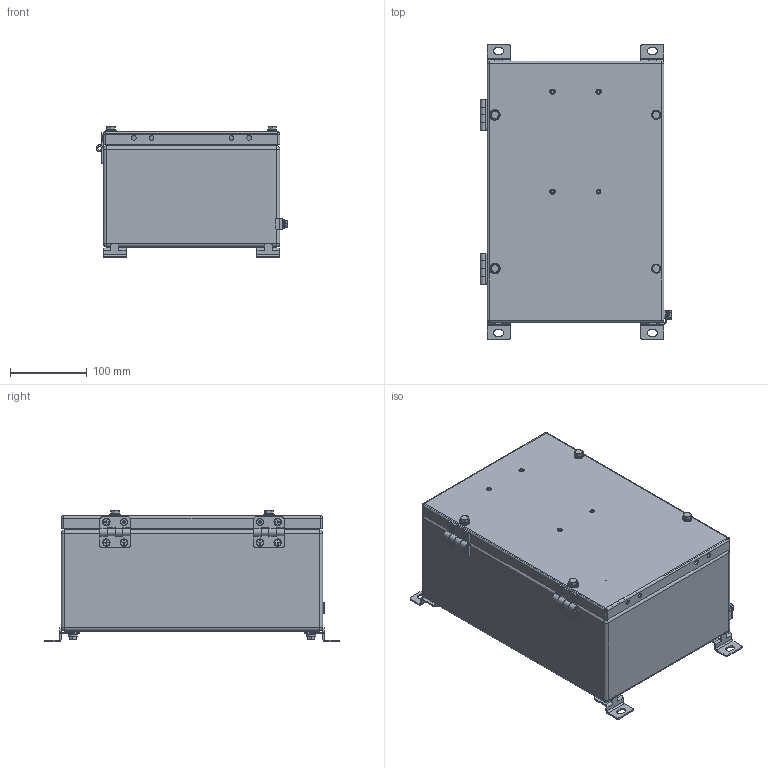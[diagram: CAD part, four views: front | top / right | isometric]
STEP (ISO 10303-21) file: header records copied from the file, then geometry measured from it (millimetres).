
FILE_DESCRIPTION((''),'2;1');
FILE_NAME('\\192.168.5.25\cortem_klient\INVENTOR БАЗА МОДЕЛЕЙ\Актуальная база моделей для отдела продаж\КСРВ-М\КСРВ-М342315_М3.stp','2019-04-09T14:40:54',('A.S.Kozlov'),(''),'Autodesk Inventor 2012','Autodesk Inventor 2012','');
FILE_SCHEMA(('CONFIG_CONTROL_DESIGN'));
Length unit declared in the file: millimetre
Products named in the file (1): КСРВ-(параметрическая модель)_Внешний контур_1
Bounding box: 249.19 x 384 x 171.2 mm (x, y, z)
Surface area: 491097.1 mm2 (no closed solid volume)
Topology: 0 solids, 84 shells, 349 faces, 1321 edges, 976 vertices
Faces by surface type: plane 197, cylinder 136, sphere 12, cone 4
Full cylindrical faces by diameter (mm): 5 x2, 5.9 x4, 6.1 x4, 10 x2, 12 x8, 12.7 x4, 14 x2
Entity records: 14464 total; most frequent: CARTESIAN_POINT 2762, DIRECTION 2390, ORIENTED_EDGE 1840, EDGE_CURVE 1278, VERTEX_POINT 966, AXIS2_PLACEMENT_3D 846, VECTOR 698, LINE 698
